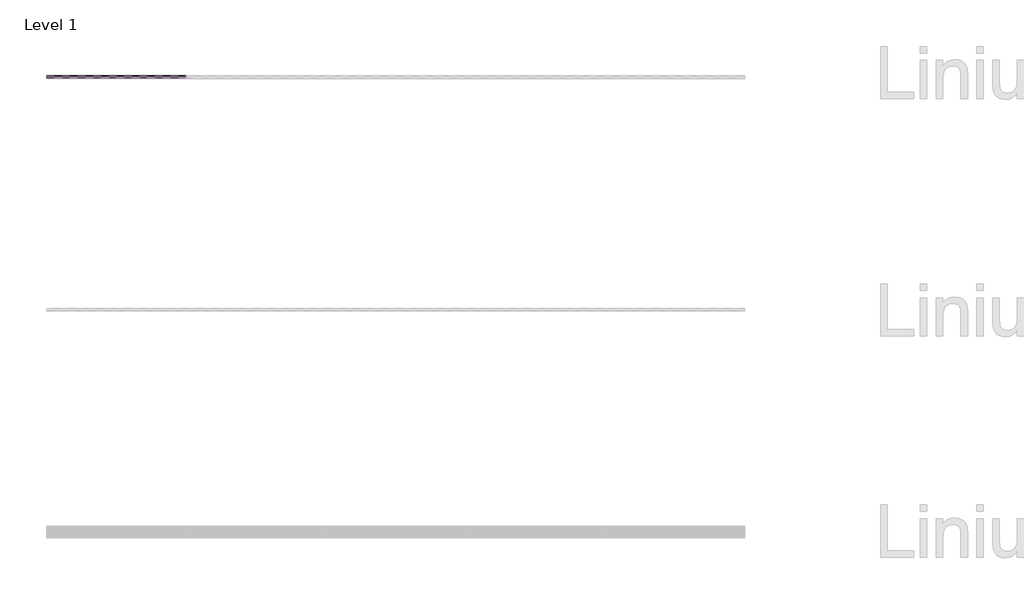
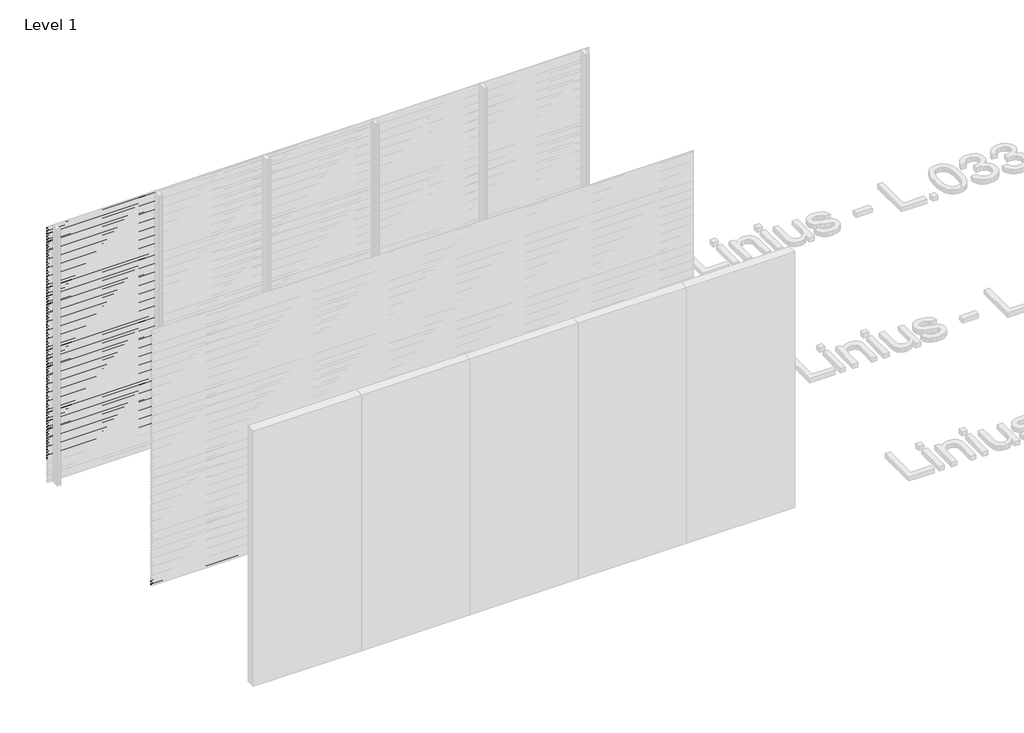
# One storey, part 70 of 507: 84 proxies.
"""IFC4 building model written with IfcOpenShell, lengths in millimetres."""

from ifc_helpers import new_model, si_unit, frame, origin, place, context, project, spatial, polyline, outline, extrude, element, save

model = new_model("IFC4")

# Units and contexts
model_context = context("Model", 3, world=origin())
ifc_project = project(units=[si_unit("LENGTHUNIT", "METRE", prefix="MILLI")], contexts=[model_context])

# Site, building, storey
site = spatial("IfcSite", under=ifc_project)
building = spatial("IfcBuilding", under=site)
storey = spatial("IfcBuildingStorey", under=building, Name="Level 1", Elevation=0.0)

# Proxies
placement = place(None, origin())
element("IfcBuildingElementProxy", 1, Name="Wall Sweeps", at=placement, inside=storey, context=model_context, shape_type="SweptSolid", body=[
    extrude(outline(polyline([(51503.4540136, 2973.0), (51503.4540136, 2959.5), (51502.2040136, 2960.2216933), (51502.2040136, 2972.2782281), (51483.0540136, 2983.3345698), (51483.0540136, 2997.0), (51484.3040136, 2997.0), (51484.3040136, 2984.0562577), (51503.4540136, 2973.0)])), frame((44966.6208097, 0.0, 0.0), z_axis=(1.0, 0.0, 0.0), x_axis=(0.0, 1.0, 0.0)), (0.0, 0.0, 1.0), 1200.0000002),
])
element("IfcBuildingElementProxy", 2, Name="Wall Sweeps", at=placement, inside=storey, context=model_context, shape_type="SweptSolid", body=[
    extrude(outline(polyline([(51503.4540136, 2939.7), (51503.4540136, 2926.2), (51502.2040136, 2926.9216933), (51502.2040136, 2938.9782281), (51483.0540136, 2950.0345698), (51483.0540136, 2963.7), (51484.3040136, 2963.7), (51484.3040136, 2950.7562577), (51503.4540136, 2939.7)])), frame((44966.6208097, 0.0, 0.0), z_axis=(1.0, 0.0, 0.0), x_axis=(0.0, 1.0, 0.0)), (0.0, 0.0, 1.0), 1200.0000002),
])
element("IfcBuildingElementProxy", 3, Name="Wall Sweeps", at=placement, inside=storey, context=model_context, shape_type="SweptSolid", body=[
    extrude(outline(polyline([(51503.4540136, 2906.4), (51503.4540136, 2892.9), (51502.2040136, 2893.6216933), (51502.2040136, 2905.6782281), (51483.0540136, 2916.7345698), (51483.0540136, 2930.4), (51484.3040136, 2930.4), (51484.3040136, 2917.4562577), (51503.4540136, 2906.4)])), frame((44966.6208097, 0.0, 0.0), z_axis=(1.0, 0.0, 0.0), x_axis=(0.0, 1.0, 0.0)), (0.0, 0.0, 1.0), 1200.0000002),
])
element("IfcBuildingElementProxy", 4, Name="Wall Sweeps", at=placement, inside=storey, context=model_context, shape_type="SweptSolid", body=[
    extrude(outline(polyline([(51503.4540136, 2873.1), (51503.4540136, 2859.6), (51502.2040136, 2860.3216933), (51502.2040136, 2872.3782281), (51483.0540136, 2883.4345698), (51483.0540136, 2897.1), (51484.3040136, 2897.1), (51484.3040136, 2884.1562577), (51503.4540136, 2873.1)])), frame((44966.6208097, 0.0, 0.0), z_axis=(1.0, 0.0, 0.0), x_axis=(0.0, 1.0, 0.0)), (0.0, 0.0, 1.0), 1200.0000002),
])
element("IfcBuildingElementProxy", 5, Name="Wall Sweeps", at=placement, inside=storey, context=model_context, shape_type="SweptSolid", body=[
    extrude(outline(polyline([(51503.4540136, 2839.8), (51503.4540136, 2826.3), (51502.2040136, 2827.0216933), (51502.2040136, 2839.0782281), (51483.0540136, 2850.1345698), (51483.0540136, 2863.8), (51484.3040136, 2863.8), (51484.3040136, 2850.8562577), (51503.4540136, 2839.8)])), frame((44966.6208097, 0.0, 0.0), z_axis=(1.0, 0.0, 0.0), x_axis=(0.0, 1.0, 0.0)), (0.0, 0.0, 1.0), 1200.0000002),
])
element("IfcBuildingElementProxy", 6, Name="Wall Sweeps", at=placement, inside=storey, context=model_context, shape_type="SweptSolid", body=[
    extrude(outline(polyline([(51503.4540136, 2806.5), (51503.4540136, 2793.0), (51502.2040136, 2793.7216933), (51502.2040136, 2805.7782281), (51483.0540136, 2816.8345698), (51483.0540136, 2830.5), (51484.3040136, 2830.5), (51484.3040136, 2817.5562577), (51503.4540136, 2806.5)])), frame((44966.6208097, 0.0, 0.0), z_axis=(1.0, 0.0, 0.0), x_axis=(0.0, 1.0, 0.0)), (0.0, 0.0, 1.0), 1200.0000002),
])
element("IfcBuildingElementProxy", 7, Name="Wall Sweeps", at=placement, inside=storey, context=model_context, shape_type="SweptSolid", body=[
    extrude(outline(polyline([(51503.4540136, 2773.2), (51503.4540136, 2759.7), (51502.2040136, 2760.4216933), (51502.2040136, 2772.4782281), (51483.0540136, 2783.5345698), (51483.0540136, 2797.2), (51484.3040136, 2797.2), (51484.3040136, 2784.2562577), (51503.4540136, 2773.2)])), frame((44966.6208097, 0.0, 0.0), z_axis=(1.0, 0.0, 0.0), x_axis=(0.0, 1.0, 0.0)), (0.0, 0.0, 1.0), 1200.0000002),
])
element("IfcBuildingElementProxy", 8, Name="Wall Sweeps", at=placement, inside=storey, context=model_context, shape_type="SweptSolid", body=[
    extrude(outline(polyline([(51503.4540136, 2739.9), (51503.4540136, 2726.4), (51502.2040136, 2727.1216933), (51502.2040136, 2739.1782281), (51483.0540136, 2750.2345698), (51483.0540136, 2763.9), (51484.3040136, 2763.9), (51484.3040136, 2750.9562577), (51503.4540136, 2739.9)])), frame((44966.6208097, 0.0, 0.0), z_axis=(1.0, 0.0, 0.0), x_axis=(0.0, 1.0, 0.0)), (0.0, 0.0, 1.0), 1200.0000002),
])
element("IfcBuildingElementProxy", 9, Name="Wall Sweeps", at=placement, inside=storey, context=model_context, shape_type="SweptSolid", body=[
    extrude(outline(polyline([(51503.4540136, 2706.6), (51503.4540136, 2693.1), (51502.2040136, 2693.8216933), (51502.2040136, 2705.8782281), (51483.0540136, 2716.9345698), (51483.0540136, 2730.6), (51484.3040136, 2730.6), (51484.3040136, 2717.6562577), (51503.4540136, 2706.6)])), frame((44966.6208097, 0.0, 0.0), z_axis=(1.0, 0.0, 0.0), x_axis=(0.0, 1.0, 0.0)), (0.0, 0.0, 1.0), 1200.0000002),
])
element("IfcBuildingElementProxy", 10, Name="Wall Sweeps", at=placement, inside=storey, context=model_context, shape_type="SweptSolid", body=[
    extrude(outline(polyline([(51503.4540136, 2673.3), (51503.4540136, 2659.8), (51502.2040136, 2660.5216933), (51502.2040136, 2672.5782281), (51483.0540136, 2683.6345698), (51483.0540136, 2697.3), (51484.3040136, 2697.3), (51484.3040136, 2684.3562577), (51503.4540136, 2673.3)])), frame((44966.6208097, 0.0, 0.0), z_axis=(1.0, 0.0, 0.0), x_axis=(0.0, 1.0, 0.0)), (0.0, 0.0, 1.0), 1200.0000002),
])
element("IfcBuildingElementProxy", 11, Name="Wall Sweeps", at=placement, inside=storey, context=model_context, shape_type="SweptSolid", body=[
    extrude(outline(polyline([(51503.4540136, 2640.0), (51503.4540136, 2626.5), (51502.2040136, 2627.2216933), (51502.2040136, 2639.2782281), (51483.0540136, 2650.3345698), (51483.0540136, 2664.0), (51484.3040136, 2664.0), (51484.3040136, 2651.0562577), (51503.4540136, 2640.0)])), frame((44966.6208097, 0.0, 0.0), z_axis=(1.0, 0.0, 0.0), x_axis=(0.0, 1.0, 0.0)), (0.0, 0.0, 1.0), 1200.0000002),
])
element("IfcBuildingElementProxy", 12, Name="Wall Sweeps", at=placement, inside=storey, context=model_context, shape_type="SweptSolid", body=[
    extrude(outline(polyline([(51503.4540136, 2606.7), (51503.4540136, 2593.2), (51502.2040136, 2593.9216933), (51502.2040136, 2605.9782281), (51483.0540136, 2617.0345698), (51483.0540136, 2630.7), (51484.3040136, 2630.7), (51484.3040136, 2617.7562577), (51503.4540136, 2606.7)])), frame((44966.6208097, 0.0, 0.0), z_axis=(1.0, 0.0, 0.0), x_axis=(0.0, 1.0, 0.0)), (0.0, 0.0, 1.0), 1200.0000002),
])
element("IfcBuildingElementProxy", 13, Name="Wall Sweeps", at=placement, inside=storey, context=model_context, shape_type="SweptSolid", body=[
    extrude(outline(polyline([(51503.4540136, 2573.4), (51503.4540136, 2559.9), (51502.2040136, 2560.6216933), (51502.2040136, 2572.6782281), (51483.0540136, 2583.7345698), (51483.0540136, 2597.4), (51484.3040136, 2597.4), (51484.3040136, 2584.4562577), (51503.4540136, 2573.4)])), frame((44966.6208097, 0.0, 0.0), z_axis=(1.0, 0.0, 0.0), x_axis=(0.0, 1.0, 0.0)), (0.0, 0.0, 1.0), 1200.0000002),
])
element("IfcBuildingElementProxy", 14, Name="Wall Sweeps", at=placement, inside=storey, context=model_context, shape_type="SweptSolid", body=[
    extrude(outline(polyline([(51503.4540136, 2540.1), (51503.4540136, 2526.6), (51502.2040136, 2527.3216933), (51502.2040136, 2539.3782281), (51483.0540136, 2550.4345698), (51483.0540136, 2564.1), (51484.3040136, 2564.1), (51484.3040136, 2551.1562577), (51503.4540136, 2540.1)])), frame((44966.6208097, 0.0, 0.0), z_axis=(1.0, 0.0, 0.0), x_axis=(0.0, 1.0, 0.0)), (0.0, 0.0, 1.0), 1200.0000002),
])
element("IfcBuildingElementProxy", 15, Name="Wall Sweeps", at=placement, inside=storey, context=model_context, shape_type="SweptSolid", body=[
    extrude(outline(polyline([(51503.4540136, 2506.8), (51503.4540136, 2493.3), (51502.2040136, 2494.0216933), (51502.2040136, 2506.0782281), (51483.0540136, 2517.1345698), (51483.0540136, 2530.8), (51484.3040136, 2530.8), (51484.3040136, 2517.8562577), (51503.4540136, 2506.8)])), frame((44966.6208097, 0.0, 0.0), z_axis=(1.0, 0.0, 0.0), x_axis=(0.0, 1.0, 0.0)), (0.0, 0.0, 1.0), 1200.0000002),
])
element("IfcBuildingElementProxy", 16, Name="Wall Sweeps", at=placement, inside=storey, context=model_context, shape_type="SweptSolid", body=[
    extrude(outline(polyline([(51503.4540136, 2473.5), (51503.4540136, 2460.0), (51502.2040136, 2460.7216933), (51502.2040136, 2472.7782281), (51483.0540136, 2483.8345698), (51483.0540136, 2497.5), (51484.3040136, 2497.5), (51484.3040136, 2484.5562577), (51503.4540136, 2473.5)])), frame((44966.6208097, 0.0, 0.0), z_axis=(1.0, 0.0, 0.0), x_axis=(0.0, 1.0, 0.0)), (0.0, 0.0, 1.0), 1200.0000002),
])
element("IfcBuildingElementProxy", 17, Name="Wall Sweeps", at=placement, inside=storey, context=model_context, shape_type="SweptSolid", body=[
    extrude(outline(polyline([(51503.4540136, 2440.2), (51503.4540136, 2426.7), (51502.2040136, 2427.4216933), (51502.2040136, 2439.4782281), (51483.0540136, 2450.5345698), (51483.0540136, 2464.2), (51484.3040136, 2464.2), (51484.3040136, 2451.2562577), (51503.4540136, 2440.2)])), frame((44966.6208097, 0.0, 0.0), z_axis=(1.0, 0.0, 0.0), x_axis=(0.0, 1.0, 0.0)), (0.0, 0.0, 1.0), 1200.0000002),
])
element("IfcBuildingElementProxy", 18, Name="Wall Sweeps", at=placement, inside=storey, context=model_context, shape_type="SweptSolid", body=[
    extrude(outline(polyline([(51503.4540136, 2406.9), (51503.4540136, 2393.4), (51502.2040136, 2394.1216933), (51502.2040136, 2406.1782281), (51483.0540136, 2417.2345698), (51483.0540136, 2430.9), (51484.3040136, 2430.9), (51484.3040136, 2417.9562577), (51503.4540136, 2406.9)])), frame((44966.6208097, 0.0, 0.0), z_axis=(1.0, 0.0, 0.0), x_axis=(0.0, 1.0, 0.0)), (0.0, 0.0, 1.0), 1200.0000002),
])
element("IfcBuildingElementProxy", 19, Name="Wall Sweeps", at=placement, inside=storey, context=model_context, shape_type="SweptSolid", body=[
    extrude(outline(polyline([(51503.4540136, 2373.6), (51503.4540136, 2360.1), (51502.2040136, 2360.8216933), (51502.2040136, 2372.8782281), (51483.0540136, 2383.9345698), (51483.0540136, 2397.6), (51484.3040136, 2397.6), (51484.3040136, 2384.6562577), (51503.4540136, 2373.6)])), frame((44966.6208097, 0.0, 0.0), z_axis=(1.0, 0.0, 0.0), x_axis=(0.0, 1.0, 0.0)), (0.0, 0.0, 1.0), 1200.0000002),
])
element("IfcBuildingElementProxy", 20, Name="Wall Sweeps", at=placement, inside=storey, context=model_context, shape_type="SweptSolid", body=[
    extrude(outline(polyline([(51503.4540136, 2340.3), (51503.4540136, 2326.8), (51502.2040136, 2327.5216933), (51502.2040136, 2339.5782281), (51483.0540136, 2350.6345698), (51483.0540136, 2364.3), (51484.3040136, 2364.3), (51484.3040136, 2351.3562577), (51503.4540136, 2340.3)])), frame((44966.6208097, 0.0, 0.0), z_axis=(1.0, 0.0, 0.0), x_axis=(0.0, 1.0, 0.0)), (0.0, 0.0, 1.0), 1200.0000002),
])
element("IfcBuildingElementProxy", 21, Name="Wall Sweeps", at=placement, inside=storey, context=model_context, shape_type="SweptSolid", body=[
    extrude(outline(polyline([(51503.4540136, 2307.0), (51503.4540136, 2293.5), (51502.2040136, 2294.2216933), (51502.2040136, 2306.2782281), (51483.0540136, 2317.3345698), (51483.0540136, 2331.0), (51484.3040136, 2331.0), (51484.3040136, 2318.0562577), (51503.4540136, 2307.0)])), frame((44966.6208097, 0.0, 0.0), z_axis=(1.0, 0.0, 0.0), x_axis=(0.0, 1.0, 0.0)), (0.0, 0.0, 1.0), 1200.0000002),
])
element("IfcBuildingElementProxy", 22, Name="Wall Sweeps", at=placement, inside=storey, context=model_context, shape_type="SweptSolid", body=[
    extrude(outline(polyline([(51503.4540136, 2273.7), (51503.4540136, 2260.2), (51502.2040136, 2260.9216933), (51502.2040136, 2272.9782281), (51483.0540136, 2284.0345698), (51483.0540136, 2297.7), (51484.3040136, 2297.7), (51484.3040136, 2284.7562577), (51503.4540136, 2273.7)])), frame((44966.6208097, 0.0, 0.0), z_axis=(1.0, 0.0, 0.0), x_axis=(0.0, 1.0, 0.0)), (0.0, 0.0, 1.0), 1200.0000002),
])
element("IfcBuildingElementProxy", 23, Name="Wall Sweeps", at=placement, inside=storey, context=model_context, shape_type="SweptSolid", body=[
    extrude(outline(polyline([(51503.4540136, 2240.4), (51503.4540136, 2226.9), (51502.2040136, 2227.6216933), (51502.2040136, 2239.6782281), (51483.0540136, 2250.7345698), (51483.0540136, 2264.4), (51484.3040136, 2264.4), (51484.3040136, 2251.4562577), (51503.4540136, 2240.4)])), frame((44966.6208097, 0.0, 0.0), z_axis=(1.0, 0.0, 0.0), x_axis=(0.0, 1.0, 0.0)), (0.0, 0.0, 1.0), 1200.0000002),
])
element("IfcBuildingElementProxy", 24, Name="Wall Sweeps", at=placement, inside=storey, context=model_context, shape_type="SweptSolid", body=[
    extrude(outline(polyline([(51503.4540136, 2207.1), (51503.4540136, 2193.6), (51502.2040136, 2194.3216933), (51502.2040136, 2206.3782281), (51483.0540136, 2217.4345698), (51483.0540136, 2231.1), (51484.3040136, 2231.1), (51484.3040136, 2218.1562577), (51503.4540136, 2207.1)])), frame((44966.6208097, 0.0, 0.0), z_axis=(1.0, 0.0, 0.0), x_axis=(0.0, 1.0, 0.0)), (0.0, 0.0, 1.0), 1200.0000002),
])
element("IfcBuildingElementProxy", 25, Name="Wall Sweeps", at=placement, inside=storey, context=model_context, shape_type="SweptSolid", body=[
    extrude(outline(polyline([(51503.4540136, 2173.8), (51503.4540136, 2160.3), (51502.2040136, 2161.0216933), (51502.2040136, 2173.0782281), (51483.0540136, 2184.1345698), (51483.0540136, 2197.8), (51484.3040136, 2197.8), (51484.3040136, 2184.8562577), (51503.4540136, 2173.8)])), frame((44966.6208097, 0.0, 0.0), z_axis=(1.0, 0.0, 0.0), x_axis=(0.0, 1.0, 0.0)), (0.0, 0.0, 1.0), 1200.0000002),
])
element("IfcBuildingElementProxy", 26, Name="Wall Sweeps", at=placement, inside=storey, context=model_context, shape_type="SweptSolid", body=[
    extrude(outline(polyline([(51503.4540136, 2140.5), (51503.4540136, 2127.0), (51502.2040136, 2127.7216933), (51502.2040136, 2139.7782281), (51483.0540136, 2150.8345698), (51483.0540136, 2164.5), (51484.3040136, 2164.5), (51484.3040136, 2151.5562577), (51503.4540136, 2140.5)])), frame((44966.6208097, 0.0, 0.0), z_axis=(1.0, 0.0, 0.0), x_axis=(0.0, 1.0, 0.0)), (0.0, 0.0, 1.0), 1200.0000002),
])
element("IfcBuildingElementProxy", 27, Name="Wall Sweeps", at=placement, inside=storey, context=model_context, shape_type="SweptSolid", body=[
    extrude(outline(polyline([(51503.4540136, 2107.2), (51503.4540136, 2093.7), (51502.2040136, 2094.4216933), (51502.2040136, 2106.4782281), (51483.0540136, 2117.5345698), (51483.0540136, 2131.2), (51484.3040136, 2131.2), (51484.3040136, 2118.2562577), (51503.4540136, 2107.2)])), frame((44966.6208097, 0.0, 0.0), z_axis=(1.0, 0.0, 0.0), x_axis=(0.0, 1.0, 0.0)), (0.0, 0.0, 1.0), 1200.0000002),
])
element("IfcBuildingElementProxy", 28, Name="Wall Sweeps", at=placement, inside=storey, context=model_context, shape_type="SweptSolid", body=[
    extrude(outline(polyline([(51503.4540136, 2073.9), (51503.4540136, 2060.4), (51502.2040136, 2061.1216933), (51502.2040136, 2073.1782281), (51483.0540136, 2084.2345698), (51483.0540136, 2097.9), (51484.3040136, 2097.9), (51484.3040136, 2084.9562577), (51503.4540136, 2073.9)])), frame((44966.6208097, 0.0, 0.0), z_axis=(1.0, 0.0, 0.0), x_axis=(0.0, 1.0, 0.0)), (0.0, 0.0, 1.0), 1200.0000002),
])
element("IfcBuildingElementProxy", 29, Name="Wall Sweeps", at=placement, inside=storey, context=model_context, shape_type="SweptSolid", body=[
    extrude(outline(polyline([(51503.4540136, 2040.6), (51503.4540136, 2027.1), (51502.2040136, 2027.8216933), (51502.2040136, 2039.8782281), (51483.0540136, 2050.9345698), (51483.0540136, 2064.6), (51484.3040136, 2064.6), (51484.3040136, 2051.6562577), (51503.4540136, 2040.6)])), frame((44966.6208097, 0.0, 0.0), z_axis=(1.0, 0.0, 0.0), x_axis=(0.0, 1.0, 0.0)), (0.0, 0.0, 1.0), 1200.0000002),
])
element("IfcBuildingElementProxy", 30, Name="Wall Sweeps", at=placement, inside=storey, context=model_context, shape_type="SweptSolid", body=[
    extrude(outline(polyline([(51503.4540136, 2007.3), (51503.4540136, 1993.8), (51502.2040136, 1994.5216933), (51502.2040136, 2006.5782281), (51483.0540136, 2017.6345698), (51483.0540136, 2031.3), (51484.3040136, 2031.3), (51484.3040136, 2018.3562577), (51503.4540136, 2007.3)])), frame((44966.6208097, 0.0, 0.0), z_axis=(1.0, 0.0, 0.0), x_axis=(0.0, 1.0, 0.0)), (0.0, 0.0, 1.0), 1200.0000002),
])
element("IfcBuildingElementProxy", 31, Name="Wall Sweeps", at=placement, inside=storey, context=model_context, shape_type="SweptSolid", body=[
    extrude(outline(polyline([(51503.4540136, 1974.0), (51503.4540136, 1960.5), (51502.2040136, 1961.2216933), (51502.2040136, 1973.2782281), (51483.0540136, 1984.3345698), (51483.0540136, 1998.0), (51484.3040136, 1998.0), (51484.3040136, 1985.0562577), (51503.4540136, 1974.0)])), frame((44966.6208097, 0.0, 0.0), z_axis=(1.0, 0.0, 0.0), x_axis=(0.0, 1.0, 0.0)), (0.0, 0.0, 1.0), 1200.0000002),
])
element("IfcBuildingElementProxy", 32, Name="Wall Sweeps", at=placement, inside=storey, context=model_context, shape_type="SweptSolid", body=[
    extrude(outline(polyline([(51503.4540136, 1940.7), (51503.4540136, 1927.2), (51502.2040136, 1927.9216933), (51502.2040136, 1939.9782281), (51483.0540136, 1951.0345698), (51483.0540136, 1964.7), (51484.3040136, 1964.7), (51484.3040136, 1951.7562577), (51503.4540136, 1940.7)])), frame((44966.6208097, 0.0, 0.0), z_axis=(1.0, 0.0, 0.0), x_axis=(0.0, 1.0, 0.0)), (0.0, 0.0, 1.0), 1200.0000002),
])
element("IfcBuildingElementProxy", 33, Name="Wall Sweeps", at=placement, inside=storey, context=model_context, shape_type="SweptSolid", body=[
    extrude(outline(polyline([(51503.4540136, 1907.4), (51503.4540136, 1893.9), (51502.2040136, 1894.6216933), (51502.2040136, 1906.6782281), (51483.0540136, 1917.7345698), (51483.0540136, 1931.4), (51484.3040136, 1931.4), (51484.3040136, 1918.4562577), (51503.4540136, 1907.4)])), frame((44966.6208097, 0.0, 0.0), z_axis=(1.0, 0.0, 0.0), x_axis=(0.0, 1.0, 0.0)), (0.0, 0.0, 1.0), 1200.0000002),
])
element("IfcBuildingElementProxy", 34, Name="Wall Sweeps", at=placement, inside=storey, context=model_context, shape_type="SweptSolid", body=[
    extrude(outline(polyline([(51503.4540136, 1874.1), (51503.4540136, 1860.6), (51502.2040136, 1861.3216933), (51502.2040136, 1873.3782281), (51483.0540136, 1884.4345698), (51483.0540136, 1898.1), (51484.3040136, 1898.1), (51484.3040136, 1885.1562577), (51503.4540136, 1874.1)])), frame((44966.6208097, 0.0, 0.0), z_axis=(1.0, 0.0, 0.0), x_axis=(0.0, 1.0, 0.0)), (0.0, 0.0, 1.0), 1200.0000002),
])
element("IfcBuildingElementProxy", 35, Name="Wall Sweeps", at=placement, inside=storey, context=model_context, shape_type="SweptSolid", body=[
    extrude(outline(polyline([(51503.4540136, 1840.8), (51503.4540136, 1827.3), (51502.2040136, 1828.0216933), (51502.2040136, 1840.0782281), (51483.0540136, 1851.1345698), (51483.0540136, 1864.8), (51484.3040136, 1864.8), (51484.3040136, 1851.8562577), (51503.4540136, 1840.8)])), frame((44966.6208097, 0.0, 0.0), z_axis=(1.0, 0.0, 0.0), x_axis=(0.0, 1.0, 0.0)), (0.0, 0.0, 1.0), 1200.0000002),
])
element("IfcBuildingElementProxy", 36, Name="Wall Sweeps", at=placement, inside=storey, context=model_context, shape_type="SweptSolid", body=[
    extrude(outline(polyline([(51503.4540136, 1807.5), (51503.4540136, 1794.0), (51502.2040136, 1794.7216933), (51502.2040136, 1806.7782281), (51483.0540136, 1817.8345698), (51483.0540136, 1831.5), (51484.3040136, 1831.5), (51484.3040136, 1818.5562577), (51503.4540136, 1807.5)])), frame((44966.6208097, 0.0, 0.0), z_axis=(1.0, 0.0, 0.0), x_axis=(0.0, 1.0, 0.0)), (0.0, 0.0, 1.0), 1200.0000002),
])
element("IfcBuildingElementProxy", 37, Name="Wall Sweeps", at=placement, inside=storey, context=model_context, shape_type="SweptSolid", body=[
    extrude(outline(polyline([(51503.4540136, 1774.2), (51503.4540136, 1760.7), (51502.2040136, 1761.4216933), (51502.2040136, 1773.4782281), (51483.0540136, 1784.5345698), (51483.0540136, 1798.2), (51484.3040136, 1798.2), (51484.3040136, 1785.2562577), (51503.4540136, 1774.2)])), frame((44966.6208097, 0.0, 0.0), z_axis=(1.0, 0.0, 0.0), x_axis=(0.0, 1.0, 0.0)), (0.0, 0.0, 1.0), 1200.0000002),
])
element("IfcBuildingElementProxy", 38, Name="Wall Sweeps", at=placement, inside=storey, context=model_context, shape_type="SweptSolid", body=[
    extrude(outline(polyline([(51503.4540136, 1740.9), (51503.4540136, 1727.4), (51502.2040136, 1728.1216933), (51502.2040136, 1740.1782281), (51483.0540136, 1751.2345698), (51483.0540136, 1764.9), (51484.3040136, 1764.9), (51484.3040136, 1751.9562577), (51503.4540136, 1740.9)])), frame((44966.6208097, 0.0, 0.0), z_axis=(1.0, 0.0, 0.0), x_axis=(0.0, 1.0, 0.0)), (0.0, 0.0, 1.0), 1200.0000002),
])
element("IfcBuildingElementProxy", 39, Name="Wall Sweeps", at=placement, inside=storey, context=model_context, shape_type="SweptSolid", body=[
    extrude(outline(polyline([(51503.4540136, 1707.6), (51503.4540136, 1694.1), (51502.2040136, 1694.8216933), (51502.2040136, 1706.8782281), (51483.0540136, 1717.9345698), (51483.0540136, 1731.6), (51484.3040136, 1731.6), (51484.3040136, 1718.6562577), (51503.4540136, 1707.6)])), frame((44966.6208097, 0.0, 0.0), z_axis=(1.0, 0.0, 0.0), x_axis=(0.0, 1.0, 0.0)), (0.0, 0.0, 1.0), 1200.0000002),
])
element("IfcBuildingElementProxy", 40, Name="Wall Sweeps", at=placement, inside=storey, context=model_context, shape_type="SweptSolid", body=[
    extrude(outline(polyline([(51503.4540136, 1674.3), (51503.4540136, 1660.8), (51502.2040136, 1661.5216933), (51502.2040136, 1673.5782281), (51483.0540136, 1684.6345698), (51483.0540136, 1698.3), (51484.3040136, 1698.3), (51484.3040136, 1685.3562577), (51503.4540136, 1674.3)])), frame((44966.6208097, 0.0, 0.0), z_axis=(1.0, 0.0, 0.0), x_axis=(0.0, 1.0, 0.0)), (0.0, 0.0, 1.0), 1200.0000002),
])
element("IfcBuildingElementProxy", 41, Name="Wall Sweeps", at=placement, inside=storey, context=model_context, shape_type="SweptSolid", body=[
    extrude(outline(polyline([(51503.4540136, 1641.0), (51503.4540136, 1627.5), (51502.2040136, 1628.2216933), (51502.2040136, 1640.2782281), (51483.0540136, 1651.3345698), (51483.0540136, 1665.0), (51484.3040136, 1665.0), (51484.3040136, 1652.0562577), (51503.4540136, 1641.0)])), frame((44966.6208097, 0.0, 0.0), z_axis=(1.0, 0.0, 0.0), x_axis=(0.0, 1.0, 0.0)), (0.0, 0.0, 1.0), 1200.0000002),
])
element("IfcBuildingElementProxy", 42, Name="Wall Sweeps", at=placement, inside=storey, context=model_context, shape_type="SweptSolid", body=[
    extrude(outline(polyline([(51503.4540136, 1607.7), (51503.4540136, 1594.2), (51502.2040136, 1594.9216933), (51502.2040136, 1606.9782281), (51483.0540136, 1618.0345698), (51483.0540136, 1631.7), (51484.3040136, 1631.7), (51484.3040136, 1618.7562577), (51503.4540136, 1607.7)])), frame((44966.6208097, 0.0, 0.0), z_axis=(1.0, 0.0, 0.0), x_axis=(0.0, 1.0, 0.0)), (0.0, 0.0, 1.0), 1200.0000002),
])
element("IfcBuildingElementProxy", 43, Name="Wall Sweeps", at=placement, inside=storey, context=model_context, shape_type="SweptSolid", body=[
    extrude(outline(polyline([(51503.4540136, 1574.4), (51503.4540136, 1560.9), (51502.2040136, 1561.6216933), (51502.2040136, 1573.6782281), (51483.0540136, 1584.7345698), (51483.0540136, 1598.4), (51484.3040136, 1598.4), (51484.3040136, 1585.4562577), (51503.4540136, 1574.4)])), frame((44966.6208097, 0.0, 0.0), z_axis=(1.0, 0.0, 0.0), x_axis=(0.0, 1.0, 0.0)), (0.0, 0.0, 1.0), 1200.0000002),
])
element("IfcBuildingElementProxy", 44, Name="Wall Sweeps", at=placement, inside=storey, context=model_context, shape_type="SweptSolid", body=[
    extrude(outline(polyline([(51503.4540136, 1541.1), (51503.4540136, 1527.6), (51502.2040136, 1528.3216933), (51502.2040136, 1540.3782281), (51483.0540136, 1551.4345698), (51483.0540136, 1565.1), (51484.3040136, 1565.1), (51484.3040136, 1552.1562577), (51503.4540136, 1541.1)])), frame((44966.6208097, 0.0, 0.0), z_axis=(1.0, 0.0, 0.0), x_axis=(0.0, 1.0, 0.0)), (0.0, 0.0, 1.0), 1200.0000002),
])
element("IfcBuildingElementProxy", 45, Name="Wall Sweeps", at=placement, inside=storey, context=model_context, shape_type="SweptSolid", body=[
    extrude(outline(polyline([(51503.4540136, 1507.8), (51503.4540136, 1494.3), (51502.2040136, 1495.0216933), (51502.2040136, 1507.0782281), (51483.0540136, 1518.1345698), (51483.0540136, 1531.8), (51484.3040136, 1531.8), (51484.3040136, 1518.8562577), (51503.4540136, 1507.8)])), frame((44966.6208097, 0.0, 0.0), z_axis=(1.0, 0.0, 0.0), x_axis=(0.0, 1.0, 0.0)), (0.0, 0.0, 1.0), 1200.0000002),
])
element("IfcBuildingElementProxy", 46, Name="Wall Sweeps", at=placement, inside=storey, context=model_context, shape_type="SweptSolid", body=[
    extrude(outline(polyline([(51503.4540136, 1474.5), (51503.4540136, 1461.0), (51502.2040136, 1461.7216933), (51502.2040136, 1473.7782281), (51483.0540136, 1484.8345698), (51483.0540136, 1498.5), (51484.3040136, 1498.5), (51484.3040136, 1485.5562577), (51503.4540136, 1474.5)])), frame((44966.6208097, 0.0, 0.0), z_axis=(1.0, 0.0, 0.0), x_axis=(0.0, 1.0, 0.0)), (0.0, 0.0, 1.0), 1200.0000002),
])
element("IfcBuildingElementProxy", 47, Name="Wall Sweeps", at=placement, inside=storey, context=model_context, shape_type="SweptSolid", body=[
    extrude(outline(polyline([(51503.4540136, 1441.2), (51503.4540136, 1427.7), (51502.2040136, 1428.4216933), (51502.2040136, 1440.4782281), (51483.0540136, 1451.5345698), (51483.0540136, 1465.2), (51484.3040136, 1465.2), (51484.3040136, 1452.2562577), (51503.4540136, 1441.2)])), frame((44966.6208097, 0.0, 0.0), z_axis=(1.0, 0.0, 0.0), x_axis=(0.0, 1.0, 0.0)), (0.0, 0.0, 1.0), 1200.0000002),
])
element("IfcBuildingElementProxy", 48, Name="Wall Sweeps", at=placement, inside=storey, context=model_context, shape_type="SweptSolid", body=[
    extrude(outline(polyline([(51503.4540136, 1407.9), (51503.4540136, 1394.4), (51502.2040136, 1395.1216933), (51502.2040136, 1407.1782281), (51483.0540136, 1418.2345698), (51483.0540136, 1431.9), (51484.3040136, 1431.9), (51484.3040136, 1418.9562577), (51503.4540136, 1407.9)])), frame((44966.6208097, 0.0, 0.0), z_axis=(1.0, 0.0, 0.0), x_axis=(0.0, 1.0, 0.0)), (0.0, 0.0, 1.0), 1200.0000002),
])
element("IfcBuildingElementProxy", 49, Name="Wall Sweeps", at=placement, inside=storey, context=model_context, shape_type="SweptSolid", body=[
    extrude(outline(polyline([(51503.4540136, 1374.6), (51503.4540136, 1361.1), (51502.2040136, 1361.8216933), (51502.2040136, 1373.8782281), (51483.0540136, 1384.9345698), (51483.0540136, 1398.6), (51484.3040136, 1398.6), (51484.3040136, 1385.6562577), (51503.4540136, 1374.6)])), frame((44966.6208097, 0.0, 0.0), z_axis=(1.0, 0.0, 0.0), x_axis=(0.0, 1.0, 0.0)), (0.0, 0.0, 1.0), 1200.0000002),
])
element("IfcBuildingElementProxy", 50, Name="Wall Sweeps", at=placement, inside=storey, context=model_context, shape_type="SweptSolid", body=[
    extrude(outline(polyline([(51503.4540136, 1341.3), (51503.4540136, 1327.8), (51502.2040136, 1328.5216933), (51502.2040136, 1340.5782281), (51483.0540136, 1351.6345698), (51483.0540136, 1365.3), (51484.3040136, 1365.3), (51484.3040136, 1352.3562577), (51503.4540136, 1341.3)])), frame((44966.6208097, 0.0, 0.0), z_axis=(1.0, 0.0, 0.0), x_axis=(0.0, 1.0, 0.0)), (0.0, 0.0, 1.0), 1200.0000002),
])
element("IfcBuildingElementProxy", 51, Name="Wall Sweeps", at=placement, inside=storey, context=model_context, shape_type="SweptSolid", body=[
    extrude(outline(polyline([(51503.4540136, 1308.0), (51503.4540136, 1294.5), (51502.2040136, 1295.2216933), (51502.2040136, 1307.2782281), (51483.0540136, 1318.3345698), (51483.0540136, 1332.0), (51484.3040136, 1332.0), (51484.3040136, 1319.0562577), (51503.4540136, 1308.0)])), frame((44966.6208097, 0.0, 0.0), z_axis=(1.0, 0.0, 0.0), x_axis=(0.0, 1.0, 0.0)), (0.0, 0.0, 1.0), 1200.0000002),
])
element("IfcBuildingElementProxy", 52, Name="Wall Sweeps", at=placement, inside=storey, context=model_context, shape_type="SweptSolid", body=[
    extrude(outline(polyline([(51503.4540136, 1274.7), (51503.4540136, 1261.2), (51502.2040136, 1261.9216933), (51502.2040136, 1273.9782281), (51483.0540136, 1285.0345698), (51483.0540136, 1298.7), (51484.3040136, 1298.7), (51484.3040136, 1285.7562577), (51503.4540136, 1274.7)])), frame((44966.6208097, 0.0, 0.0), z_axis=(1.0, 0.0, 0.0), x_axis=(0.0, 1.0, 0.0)), (0.0, 0.0, 1.0), 1200.0000002),
])
element("IfcBuildingElementProxy", 53, Name="Wall Sweeps", at=placement, inside=storey, context=model_context, shape_type="SweptSolid", body=[
    extrude(outline(polyline([(51503.4540136, 1241.4), (51503.4540136, 1227.9), (51502.2040136, 1228.6216933), (51502.2040136, 1240.6782281), (51483.0540136, 1251.7345698), (51483.0540136, 1265.4), (51484.3040136, 1265.4), (51484.3040136, 1252.4562577), (51503.4540136, 1241.4)])), frame((44966.6208097, 0.0, 0.0), z_axis=(1.0, 0.0, 0.0), x_axis=(0.0, 1.0, 0.0)), (0.0, 0.0, 1.0), 1200.0000002),
])
element("IfcBuildingElementProxy", 54, Name="Wall Sweeps", at=placement, inside=storey, context=model_context, shape_type="SweptSolid", body=[
    extrude(outline(polyline([(51503.4540136, 1208.1), (51503.4540136, 1194.6), (51502.2040136, 1195.3216933), (51502.2040136, 1207.3782281), (51483.0540136, 1218.4345698), (51483.0540136, 1232.1), (51484.3040136, 1232.1), (51484.3040136, 1219.1562577), (51503.4540136, 1208.1)])), frame((44966.6208097, 0.0, 0.0), z_axis=(1.0, 0.0, 0.0), x_axis=(0.0, 1.0, 0.0)), (0.0, 0.0, 1.0), 1200.0000002),
])
element("IfcBuildingElementProxy", 55, Name="Wall Sweeps", at=placement, inside=storey, context=model_context, shape_type="SweptSolid", body=[
    extrude(outline(polyline([(51503.4540136, 1174.8), (51503.4540136, 1161.3), (51502.2040136, 1162.0216933), (51502.2040136, 1174.0782281), (51483.0540136, 1185.1345698), (51483.0540136, 1198.8), (51484.3040136, 1198.8), (51484.3040136, 1185.8562577), (51503.4540136, 1174.8)])), frame((44966.6208097, 0.0, 0.0), z_axis=(1.0, 0.0, 0.0), x_axis=(0.0, 1.0, 0.0)), (0.0, 0.0, 1.0), 1200.0000002),
])
element("IfcBuildingElementProxy", 56, Name="Wall Sweeps", at=placement, inside=storey, context=model_context, shape_type="SweptSolid", body=[
    extrude(outline(polyline([(51503.4540136, 1141.5), (51503.4540136, 1128.0), (51502.2040136, 1128.7216933), (51502.2040136, 1140.7782281), (51483.0540136, 1151.8345698), (51483.0540136, 1165.5), (51484.3040136, 1165.5), (51484.3040136, 1152.5562577), (51503.4540136, 1141.5)])), frame((44966.6208097, 0.0, 0.0), z_axis=(1.0, 0.0, 0.0), x_axis=(0.0, 1.0, 0.0)), (0.0, 0.0, 1.0), 1200.0000002),
])
element("IfcBuildingElementProxy", 57, Name="Wall Sweeps", at=placement, inside=storey, context=model_context, shape_type="SweptSolid", body=[
    extrude(outline(polyline([(51503.4540136, 1108.2), (51503.4540136, 1094.7), (51502.2040136, 1095.4216933), (51502.2040136, 1107.4782281), (51483.0540136, 1118.5345698), (51483.0540136, 1132.2), (51484.3040136, 1132.2), (51484.3040136, 1119.2562577), (51503.4540136, 1108.2)])), frame((44966.6208097, 0.0, 0.0), z_axis=(1.0, 0.0, 0.0), x_axis=(0.0, 1.0, 0.0)), (0.0, 0.0, 1.0), 1200.0000002),
])
element("IfcBuildingElementProxy", 58, Name="Wall Sweeps", at=placement, inside=storey, context=model_context, shape_type="SweptSolid", body=[
    extrude(outline(polyline([(51503.4540136, 1074.9), (51503.4540136, 1061.4), (51502.2040136, 1062.1216933), (51502.2040136, 1074.1782281), (51483.0540136, 1085.2345698), (51483.0540136, 1098.9), (51484.3040136, 1098.9), (51484.3040136, 1085.9562577), (51503.4540136, 1074.9)])), frame((44966.6208097, 0.0, 0.0), z_axis=(1.0, 0.0, 0.0), x_axis=(0.0, 1.0, 0.0)), (0.0, 0.0, 1.0), 1200.0000002),
])
element("IfcBuildingElementProxy", 59, Name="Wall Sweeps", at=placement, inside=storey, context=model_context, shape_type="SweptSolid", body=[
    extrude(outline(polyline([(51503.4540136, 1041.6), (51503.4540136, 1028.1), (51502.2040136, 1028.8216933), (51502.2040136, 1040.8782281), (51483.0540136, 1051.9345698), (51483.0540136, 1065.6), (51484.3040136, 1065.6), (51484.3040136, 1052.6562577), (51503.4540136, 1041.6)])), frame((44966.6208097, 0.0, 0.0), z_axis=(1.0, 0.0, 0.0), x_axis=(0.0, 1.0, 0.0)), (0.0, 0.0, 1.0), 1200.0000002),
])
element("IfcBuildingElementProxy", 60, Name="Wall Sweeps", at=placement, inside=storey, context=model_context, shape_type="SweptSolid", body=[
    extrude(outline(polyline([(51503.4540136, 1008.3), (51503.4540136, 994.8), (51502.2040136, 995.5216933), (51502.2040136, 1007.5782281), (51483.0540136, 1018.6345698), (51483.0540136, 1032.3), (51484.3040136, 1032.3), (51484.3040136, 1019.3562577), (51503.4540136, 1008.3)])), frame((44966.6208097, 0.0, 0.0), z_axis=(1.0, 0.0, 0.0), x_axis=(0.0, 1.0, 0.0)), (0.0, 0.0, 1.0), 1200.0000002),
])
element("IfcBuildingElementProxy", 61, Name="Wall Sweeps", at=placement, inside=storey, context=model_context, shape_type="SweptSolid", body=[
    extrude(outline(polyline([(51503.4540136, 975.0), (51503.4540136, 961.5), (51502.2040136, 962.2216933), (51502.2040136, 974.2782281), (51483.0540136, 985.3345698), (51483.0540136, 999.0), (51484.3040136, 999.0), (51484.3040136, 986.0562577), (51503.4540136, 975.0)])), frame((44966.6208097, 0.0, 0.0), z_axis=(1.0, 0.0, 0.0), x_axis=(0.0, 1.0, 0.0)), (0.0, 0.0, 1.0), 1200.0000002),
])
element("IfcBuildingElementProxy", 62, Name="Wall Sweeps", at=placement, inside=storey, context=model_context, shape_type="SweptSolid", body=[
    extrude(outline(polyline([(51503.4540136, 941.7), (51503.4540136, 928.2), (51502.2040136, 928.9216933), (51502.2040136, 940.9782281), (51483.0540136, 952.0345698), (51483.0540136, 965.7), (51484.3040136, 965.7), (51484.3040136, 952.7562577), (51503.4540136, 941.7)])), frame((44966.6208097, 0.0, 0.0), z_axis=(1.0, 0.0, 0.0), x_axis=(0.0, 1.0, 0.0)), (0.0, 0.0, 1.0), 1200.0000002),
])
element("IfcBuildingElementProxy", 63, Name="Wall Sweeps", at=placement, inside=storey, context=model_context, shape_type="SweptSolid", body=[
    extrude(outline(polyline([(51503.4540136, 908.4), (51503.4540136, 894.9), (51502.2040136, 895.6216933), (51502.2040136, 907.6782281), (51483.0540136, 918.7345698), (51483.0540136, 932.4), (51484.3040136, 932.4), (51484.3040136, 919.4562577), (51503.4540136, 908.4)])), frame((44966.6208097, 0.0, 0.0), z_axis=(1.0, 0.0, 0.0), x_axis=(0.0, 1.0, 0.0)), (0.0, 0.0, 1.0), 1200.0000002),
])
element("IfcBuildingElementProxy", 64, Name="Wall Sweeps", at=placement, inside=storey, context=model_context, shape_type="SweptSolid", body=[
    extrude(outline(polyline([(51503.4540136, 875.1), (51503.4540136, 861.6), (51502.2040136, 862.3216933), (51502.2040136, 874.3782281), (51483.0540136, 885.4345698), (51483.0540136, 899.1), (51484.3040136, 899.1), (51484.3040136, 886.1562577), (51503.4540136, 875.1)])), frame((44966.6208097, 0.0, 0.0), z_axis=(1.0, 0.0, 0.0), x_axis=(0.0, 1.0, 0.0)), (0.0, 0.0, 1.0), 1200.0000002),
])
element("IfcBuildingElementProxy", 65, Name="Wall Sweeps", at=placement, inside=storey, context=model_context, shape_type="SweptSolid", body=[
    extrude(outline(polyline([(51503.4540136, 841.8), (51503.4540136, 828.3), (51502.2040136, 829.0216933), (51502.2040136, 841.0782281), (51483.0540136, 852.1345698), (51483.0540136, 865.8), (51484.3040136, 865.8), (51484.3040136, 852.8562577), (51503.4540136, 841.8)])), frame((44966.6208097, 0.0, 0.0), z_axis=(1.0, 0.0, 0.0), x_axis=(0.0, 1.0, 0.0)), (0.0, 0.0, 1.0), 1200.0000002),
])
element("IfcBuildingElementProxy", 66, Name="Wall Sweeps", at=placement, inside=storey, context=model_context, shape_type="SweptSolid", body=[
    extrude(outline(polyline([(51503.4540136, 808.5), (51503.4540136, 795.0), (51502.2040136, 795.7216933), (51502.2040136, 807.7782281), (51483.0540136, 818.8345698), (51483.0540136, 832.5), (51484.3040136, 832.5), (51484.3040136, 819.5562577), (51503.4540136, 808.5)])), frame((44966.6208097, 0.0, 0.0), z_axis=(1.0, 0.0, 0.0), x_axis=(0.0, 1.0, 0.0)), (0.0, 0.0, 1.0), 1200.0000002),
])
element("IfcBuildingElementProxy", 67, Name="Wall Sweeps", at=placement, inside=storey, context=model_context, shape_type="SweptSolid", body=[
    extrude(outline(polyline([(51503.4540136, 775.2), (51503.4540136, 761.7), (51502.2040136, 762.4216933), (51502.2040136, 774.4782281), (51483.0540136, 785.5345698), (51483.0540136, 799.2), (51484.3040136, 799.2), (51484.3040136, 786.2562577), (51503.4540136, 775.2)])), frame((44966.6208097, 0.0, 0.0), z_axis=(1.0, 0.0, 0.0), x_axis=(0.0, 1.0, 0.0)), (0.0, 0.0, 1.0), 1200.0000002),
])
element("IfcBuildingElementProxy", 68, Name="Wall Sweeps", at=placement, inside=storey, context=model_context, shape_type="SweptSolid", body=[
    extrude(outline(polyline([(51503.4540136, 741.9), (51503.4540136, 728.4), (51502.2040136, 729.1216933), (51502.2040136, 741.1782281), (51483.0540136, 752.2345698), (51483.0540136, 765.9), (51484.3040136, 765.9), (51484.3040136, 752.9562577), (51503.4540136, 741.9)])), frame((44966.6208097, 0.0, 0.0), z_axis=(1.0, 0.0, 0.0), x_axis=(0.0, 1.0, 0.0)), (0.0, 0.0, 1.0), 1200.0000002),
])
element("IfcBuildingElementProxy", 69, Name="Wall Sweeps", at=placement, inside=storey, context=model_context, shape_type="SweptSolid", body=[
    extrude(outline(polyline([(51503.4540136, 708.6), (51503.4540136, 695.1), (51502.2040136, 695.8216933), (51502.2040136, 707.8782281), (51483.0540136, 718.9345698), (51483.0540136, 732.6), (51484.3040136, 732.6), (51484.3040136, 719.6562577), (51503.4540136, 708.6)])), frame((44966.6208097, 0.0, 0.0), z_axis=(1.0, 0.0, 0.0), x_axis=(0.0, 1.0, 0.0)), (0.0, 0.0, 1.0), 1200.0000002),
])
element("IfcBuildingElementProxy", 70, Name="Wall Sweeps", at=placement, inside=storey, context=model_context, shape_type="SweptSolid", body=[
    extrude(outline(polyline([(51503.4540136, 675.3), (51503.4540136, 661.8), (51502.2040136, 662.5216933), (51502.2040136, 674.5782281), (51483.0540136, 685.6345698), (51483.0540136, 699.3), (51484.3040136, 699.3), (51484.3040136, 686.3562577), (51503.4540136, 675.3)])), frame((44966.6208097, 0.0, 0.0), z_axis=(1.0, 0.0, 0.0), x_axis=(0.0, 1.0, 0.0)), (0.0, 0.0, 1.0), 1200.0000002),
])
element("IfcBuildingElementProxy", 71, Name="Wall Sweeps", at=placement, inside=storey, context=model_context, shape_type="SweptSolid", body=[
    extrude(outline(polyline([(51503.4540136, 642.0), (51503.4540136, 628.5), (51502.2040136, 629.2216933), (51502.2040136, 641.2782281), (51483.0540136, 652.3345698), (51483.0540136, 666.0), (51484.3040136, 666.0), (51484.3040136, 653.0562577), (51503.4540136, 642.0)])), frame((44966.6208097, 0.0, 0.0), z_axis=(1.0, 0.0, 0.0), x_axis=(0.0, 1.0, 0.0)), (0.0, 0.0, 1.0), 1200.0000002),
])
element("IfcBuildingElementProxy", 72, Name="Wall Sweeps", at=placement, inside=storey, context=model_context, shape_type="SweptSolid", body=[
    extrude(outline(polyline([(51503.4540136, 608.7), (51503.4540136, 595.2), (51502.2040136, 595.9216933), (51502.2040136, 607.9782281), (51483.0540136, 619.0345698), (51483.0540136, 632.7), (51484.3040136, 632.7), (51484.3040136, 619.7562577), (51503.4540136, 608.7)])), frame((44966.6208097, 0.0, 0.0), z_axis=(1.0, 0.0, 0.0), x_axis=(0.0, 1.0, 0.0)), (0.0, 0.0, 1.0), 1200.0000002),
])
element("IfcBuildingElementProxy", 73, Name="Wall Sweeps", at=placement, inside=storey, context=model_context, shape_type="SweptSolid", body=[
    extrude(outline(polyline([(51503.4540136, 575.4), (51503.4540136, 561.9), (51502.2040136, 562.6216933), (51502.2040136, 574.6782281), (51483.0540136, 585.7345698), (51483.0540136, 599.4), (51484.3040136, 599.4), (51484.3040136, 586.4562577), (51503.4540136, 575.4)])), frame((44966.6208097, 0.0, 0.0), z_axis=(1.0, 0.0, 0.0), x_axis=(0.0, 1.0, 0.0)), (0.0, 0.0, 1.0), 1200.0000002),
])
element("IfcBuildingElementProxy", 74, Name="Wall Sweeps", at=placement, inside=storey, context=model_context, shape_type="SweptSolid", body=[
    extrude(outline(polyline([(51503.4540136, 542.1), (51503.4540136, 528.6), (51502.2040136, 529.3216933), (51502.2040136, 541.3782281), (51483.0540136, 552.4345698), (51483.0540136, 566.1), (51484.3040136, 566.1), (51484.3040136, 553.1562577), (51503.4540136, 542.1)])), frame((44966.6208097, 0.0, 0.0), z_axis=(1.0, 0.0, 0.0), x_axis=(0.0, 1.0, 0.0)), (0.0, 0.0, 1.0), 1200.0000002),
])
element("IfcBuildingElementProxy", 75, Name="Wall Sweeps", at=placement, inside=storey, context=model_context, shape_type="SweptSolid", body=[
    extrude(outline(polyline([(51503.4540136, 508.8), (51503.4540136, 495.3), (51502.2040136, 496.0216933), (51502.2040136, 508.0782281), (51483.0540136, 519.1345698), (51483.0540136, 532.8), (51484.3040136, 532.8), (51484.3040136, 519.8562577), (51503.4540136, 508.8)])), frame((44966.6208097, 0.0, 0.0), z_axis=(1.0, 0.0, 0.0), x_axis=(0.0, 1.0, 0.0)), (0.0, 0.0, 1.0), 1200.0000002),
])
element("IfcBuildingElementProxy", 76, Name="Wall Sweeps", at=placement, inside=storey, context=model_context, shape_type="SweptSolid", body=[
    extrude(outline(polyline([(51503.4540136, 475.5), (51503.4540136, 462.0), (51502.2040136, 462.7216933), (51502.2040136, 474.7782281), (51483.0540136, 485.8345698), (51483.0540136, 499.5), (51484.3040136, 499.5), (51484.3040136, 486.5562577), (51503.4540136, 475.5)])), frame((44966.6208097, 0.0, 0.0), z_axis=(1.0, 0.0, 0.0), x_axis=(0.0, 1.0, 0.0)), (0.0, 0.0, 1.0), 1200.0000002),
])
element("IfcBuildingElementProxy", 77, Name="Wall Sweeps", at=placement, inside=storey, context=model_context, shape_type="SweptSolid", body=[
    extrude(outline(polyline([(51503.4540136, 442.2), (51503.4540136, 428.7), (51502.2040136, 429.4216933), (51502.2040136, 441.4782281), (51483.0540136, 452.5345698), (51483.0540136, 466.2), (51484.3040136, 466.2), (51484.3040136, 453.2562577), (51503.4540136, 442.2)])), frame((44966.6208097, 0.0, 0.0), z_axis=(1.0, 0.0, 0.0), x_axis=(0.0, 1.0, 0.0)), (0.0, 0.0, 1.0), 1200.0000002),
])
element("IfcBuildingElementProxy", 78, Name="Wall Sweeps", at=placement, inside=storey, context=model_context, shape_type="SweptSolid", body=[
    extrude(outline(polyline([(51503.4540136, 408.9), (51503.4540136, 395.4), (51502.2040136, 396.1216933), (51502.2040136, 408.1782281), (51483.0540136, 419.2345698), (51483.0540136, 432.9), (51484.3040136, 432.9), (51484.3040136, 419.9562577), (51503.4540136, 408.9)])), frame((44966.6208097, 0.0, 0.0), z_axis=(1.0, 0.0, 0.0), x_axis=(0.0, 1.0, 0.0)), (0.0, 0.0, 1.0), 1200.0000002),
])
element("IfcBuildingElementProxy", 79, Name="Wall Sweeps", at=placement, inside=storey, context=model_context, shape_type="SweptSolid", body=[
    extrude(outline(polyline([(51503.4540136, 375.6), (51503.4540136, 362.1), (51502.2040136, 362.8216933), (51502.2040136, 374.8782281), (51483.0540136, 385.9345698), (51483.0540136, 399.6), (51484.3040136, 399.6), (51484.3040136, 386.6562577), (51503.4540136, 375.6)])), frame((44966.6208097, 0.0, 0.0), z_axis=(1.0, 0.0, 0.0), x_axis=(0.0, 1.0, 0.0)), (0.0, 0.0, 1.0), 1200.0000002),
])
element("IfcBuildingElementProxy", 80, Name="Wall Sweeps", at=placement, inside=storey, context=model_context, shape_type="SweptSolid", body=[
    extrude(outline(polyline([(51503.4540136, 342.3), (51503.4540136, 328.8), (51502.2040136, 329.5216933), (51502.2040136, 341.5782281), (51483.0540136, 352.6345698), (51483.0540136, 366.3), (51484.3040136, 366.3), (51484.3040136, 353.3562577), (51503.4540136, 342.3)])), frame((44966.6208097, 0.0, 0.0), z_axis=(1.0, 0.0, 0.0), x_axis=(0.0, 1.0, 0.0)), (0.0, 0.0, 1.0), 1200.0000002),
])
element("IfcBuildingElementProxy", 81, Name="Wall Sweeps", at=placement, inside=storey, context=model_context, shape_type="SweptSolid", body=[
    extrude(outline(polyline([(51503.4540136, 309.0), (51503.4540136, 295.5), (51502.2040136, 296.2216933), (51502.2040136, 308.2782281), (51483.0540136, 319.3345698), (51483.0540136, 333.0), (51484.3040136, 333.0), (51484.3040136, 320.0562577), (51503.4540136, 309.0)])), frame((44966.6208097, 0.0, 0.0), z_axis=(1.0, 0.0, 0.0), x_axis=(0.0, 1.0, 0.0)), (0.0, 0.0, 1.0), 1200.0000002),
])
element("IfcBuildingElementProxy", 82, Name="Wall Sweeps", at=placement, inside=storey, context=model_context, shape_type="SweptSolid", body=[
    extrude(outline(polyline([(51503.4540136, 275.7), (51503.4540136, 262.2), (51502.2040136, 262.9216933), (51502.2040136, 274.9782281), (51483.0540136, 286.0345698), (51483.0540136, 299.7), (51484.3040136, 299.7), (51484.3040136, 286.7562577), (51503.4540136, 275.7)])), frame((44966.6208097, 0.0, 0.0), z_axis=(1.0, 0.0, 0.0), x_axis=(0.0, 1.0, 0.0)), (0.0, 0.0, 1.0), 1200.0000002),
])
element("IfcBuildingElementProxy", 83, Name="Wall Sweeps", at=placement, inside=storey, context=model_context, shape_type="SweptSolid", body=[
    extrude(outline(polyline([(49503.4540136, 42.6), (49503.4540136, 29.1), (49502.2040136, 29.8216933), (49502.2040136, 41.8782281), (49483.0540136, 52.9345698), (49483.0540136, 66.6), (49484.3040136, 66.6), (49484.3040136, 53.6562577), (49503.4540136, 42.6)])), frame((44966.6208097, 0.0, 0.0), z_axis=(1.0, 0.0, 0.0), x_axis=(0.0, 1.0, 0.0)), (0.0, 0.0, 1.0), 6000.0),
])
element("IfcBuildingElementProxy", 84, Name="Wall Sweeps", at=placement, inside=storey, context=model_context, shape_type="SweptSolid", body=[
    extrude(outline(polyline([(49503.4540136, 9.3), (49503.4540136, -4.2), (49502.2040136, -3.4783067), (49502.2040136, 8.5782281), (49483.0540136, 19.6345698), (49483.0540136, 33.3), (49484.3040136, 33.3), (49484.3040136, 20.3562577), (49503.4540136, 9.3)])), frame((44966.6208097, 0.0, 0.0), z_axis=(1.0, 0.0, 0.0), x_axis=(0.0, 1.0, 0.0)), (0.0, 0.0, 1.0), 6000.0),
])

save(model, "model.ifc")
